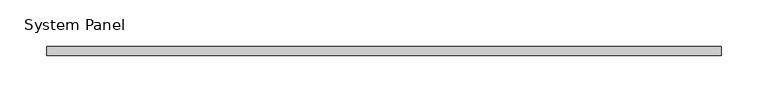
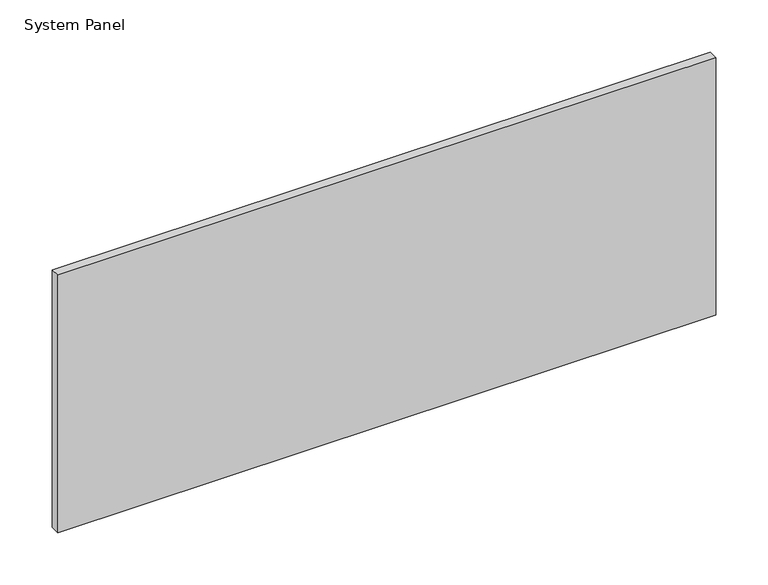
"""IFC4 building model written with IfcOpenShell, lengths in millimetres: plate geometry, System Panel : стекло_смещение_0."""

from ifc_helpers import new_model, si_unit, origin, origin_with_axes, place, context, project, spatial, polyline, outline, extrude, source, transform, mapped, element, save


def system_panel_cf9e927c(model_context):
    return source(origin(), model_context, "Body", "SweptSolid", [
        extrude(outline(polyline([(362.5, -5.0), (-362.5, -5.0), (-362.5, 5.0), (362.5, 5.0), (362.5, -5.0)])), origin_with_axes(), (0.0, 0.0, 1.0), 300.0),
    ])


if __name__ == "__main__":
    model = new_model("IFC4")
    model_context = context("Model", 3, world=origin())
    ifc_project = project(units=[si_unit("LENGTHUNIT", "METRE", prefix="MILLI")], contexts=[model_context])
    site = spatial("IfcSite", under=ifc_project)
    building = spatial("IfcBuilding", under=site)
    placement = place(None, origin())
    system_panel_shape = system_panel_cf9e927c(model_context)
    element("IfcPlate", 1, ObjectType="System Panel : стекло_смещение_0", at=placement, inside=building, context=model_context, shape_type="MappedRepresentation", body=[
        mapped(system_panel_shape, transform((0.0, 0.0, 0.0), x_axis=(1.0, 0.0, 0.0), y_axis=(0.0, 1.0, 0.0), z_axis=(0.0, 0.0, 1.0))),
    ])
    save(model, "model.ifc")
